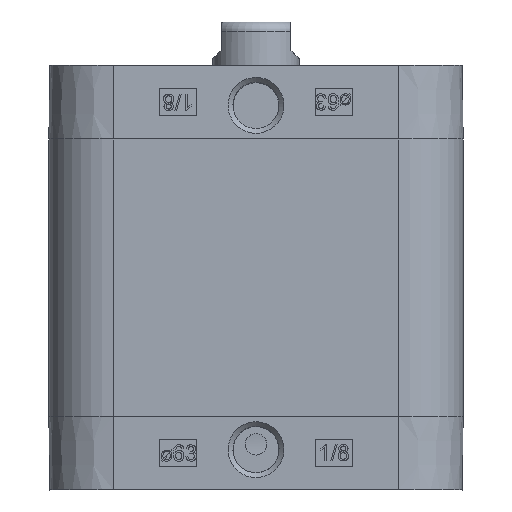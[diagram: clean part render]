
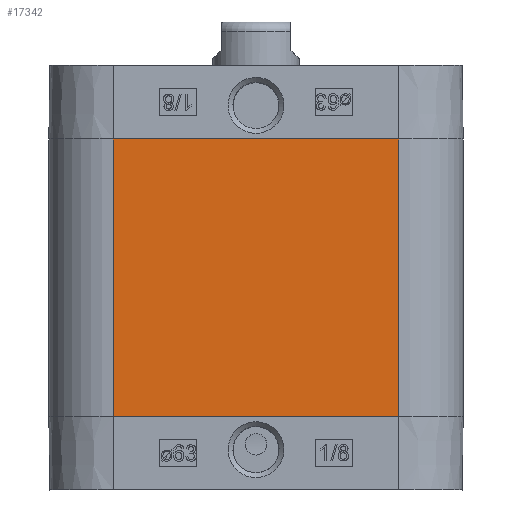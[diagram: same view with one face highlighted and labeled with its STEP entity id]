
A CAD part, left-side view. The second image highlights one B-rep face of the part: STEP entity #17342.
In plain terms, the highlighted planar face has unit normal (-1, 0, 0).
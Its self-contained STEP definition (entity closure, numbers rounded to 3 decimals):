
#1033=PLANE('',#18459);
#1955=LINE('',#27017,#3043);
#2009=LINE('',#27241,#3097);
#2063=LINE('',#27466,#3151);
#2064=LINE('',#27467,#3152);
#3043=VECTOR('',#21179,1000.);
#3097=VECTOR('',#21351,1000.);
#3151=VECTOR('',#21523,1000.);
#3152=VECTOR('',#21524,1000.);
#6521=ORIENTED_EDGE('',*,*,#8489,.T.);
#6522=ORIENTED_EDGE('',*,*,#8713,.F.);
#6523=ORIENTED_EDGE('',*,*,#8601,.T.);
#6524=ORIENTED_EDGE('',*,*,#8714,.T.);
#8489=EDGE_CURVE('',#9884,#9882,#1955,.T.);
#8601=EDGE_CURVE('',#9995,#9996,#2009,.T.);
#8713=EDGE_CURVE('',#9995,#9882,#2063,.T.);
#8714=EDGE_CURVE('',#9996,#9884,#2064,.T.);
#9882=VERTEX_POINT('',#27015);
#9884=VERTEX_POINT('',#27018);
#9995=VERTEX_POINT('',#27242);
#9996=VERTEX_POINT('',#27243);
#11324=EDGE_LOOP('',(#6521,#6522,#6523,#6524));
#12232=FACE_BOUND('',#11324,.T.);
#17342=ADVANCED_FACE('',(#12232),#1033,.T.);
#18459=AXIS2_PLACEMENT_3D('',#27465,#21521,#21522);
#21179=DIRECTION('',(0.,1.,0.));
#21351=DIRECTION('',(0.,-1.,0.));
#21521=DIRECTION('',(-1.,0.,0.));
#21522=DIRECTION('',(0.,0.,1.));
#21523=DIRECTION('',(0.,0.,1.));
#21524=DIRECTION('',(0.,0.,1.));
#27015=CARTESIAN_POINT('',(-38.5,26.5,51.5));
#27017=CARTESIAN_POINT('',(-38.5,-26.5,51.5));
#27018=CARTESIAN_POINT('',(-38.5,-26.5,51.5));
#27241=CARTESIAN_POINT('',(-38.5,26.5,0.));
#27242=CARTESIAN_POINT('',(-38.5,26.5,0.));
#27243=CARTESIAN_POINT('',(-38.5,-26.5,0.));
#27465=CARTESIAN_POINT('',(-38.5,-26.5,0.));
#27466=CARTESIAN_POINT('',(-38.5,26.5,0.));
#27467=CARTESIAN_POINT('',(-38.5,-26.5,0.));
